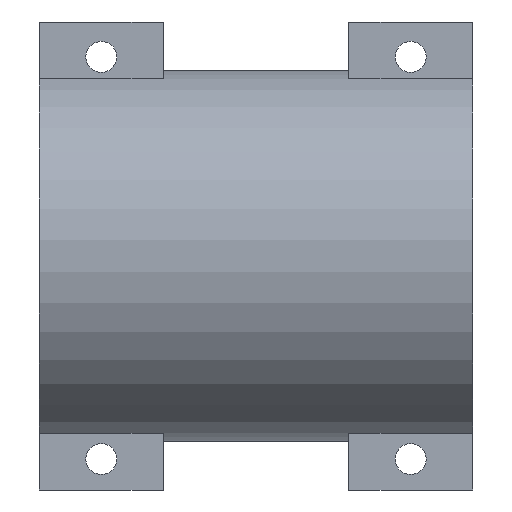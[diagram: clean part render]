
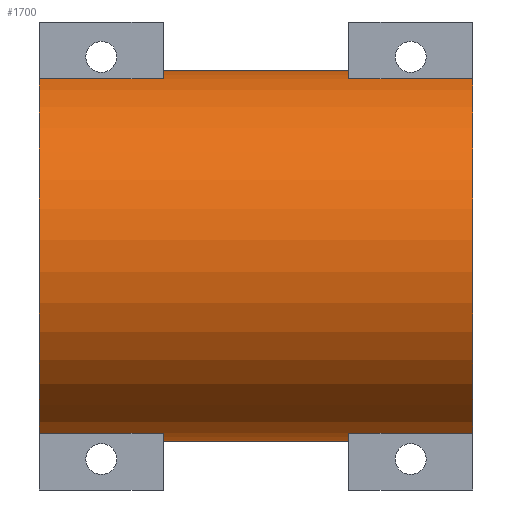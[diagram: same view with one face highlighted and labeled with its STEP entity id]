
A CAD part, left-side view. The second image highlights one B-rep face of the part: STEP entity #1700.
In plain terms, the highlighted cylindrical face has radius 30 mm (diameter 60 mm), a partial arc.
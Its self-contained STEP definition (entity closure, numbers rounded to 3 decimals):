
#2 = CARTESIAN_POINT ( 'NONE',  ( -1.79, 20., 29.947 ) ) ;
#6 = CARTESIAN_POINT ( 'NONE',  ( 0., 0., 0. ) ) ;
#7 = EDGE_CURVE ( 'NONE', #416, #1855, #1202, .T. ) ;
#26 = AXIS2_PLACEMENT_3D ( 'NONE', #206, #684, #1510 ) ;
#30 = AXIS2_PLACEMENT_3D ( 'NONE', #441, #1229, #449 ) ;
#50 = EDGE_CURVE ( 'NONE', #1523, #505, #1158, .T. ) ;
#81 = CARTESIAN_POINT ( 'NONE',  ( -1.79, 50., 29.947 ) ) ;
#98 = CARTESIAN_POINT ( 'NONE',  ( -8.79, 0., 28.683 ) ) ;
#112 = ORIENTED_EDGE ( 'NONE', *, *, #852, .T. ) ;
#129 = ORIENTED_EDGE ( 'NONE', *, *, #50, .T. ) ;
#162 = CIRCLE ( 'NONE', #30, 30. ) ;
#175 = CARTESIAN_POINT ( 'NONE',  ( -1.79, 50., -29.947 ) ) ;
#195 = VERTEX_POINT ( 'NONE', #81 ) ;
#206 = CARTESIAN_POINT ( 'NONE',  ( 0., 70., 0. ) ) ;
#210 = VERTEX_POINT ( 'NONE', #2012 ) ;
#236 = VECTOR ( 'NONE', #466, 1000. ) ;
#257 = CARTESIAN_POINT ( 'NONE',  ( -8.79, 70., -28.683 ) ) ;
#267 = CARTESIAN_POINT ( 'NONE',  ( -1.79, 70., -29.947 ) ) ;
#278 = CARTESIAN_POINT ( 'NONE',  ( -1.79, 70., 29.947 ) ) ;
#292 = DIRECTION ( 'NONE',  ( 0., 1., 0. ) ) ;
#308 = CIRCLE ( 'NONE', #1760, 30. ) ;
#320 = CIRCLE ( 'NONE', #1273, 30. ) ;
#346 = EDGE_CURVE ( 'NONE', #1458, #195, #501, .T. ) ;
#400 = EDGE_CURVE ( 'NONE', #846, #1401, #1978, .T. ) ;
#416 = VERTEX_POINT ( 'NONE', #175 ) ;
#441 = CARTESIAN_POINT ( 'NONE',  ( 0., 50., 0. ) ) ;
#449 = DIRECTION ( 'NONE',  ( 0., 0., -1. ) ) ;
#466 = DIRECTION ( 'NONE',  ( 0., 1., 0. ) ) ;
#498 = ORIENTED_EDGE ( 'NONE', *, *, #1990, .T. ) ;
#501 = LINE ( 'NONE', #278, #1312 ) ;
#502 = EDGE_CURVE ( 'NONE', #1200, #210, #320, .T. ) ;
#505 = VERTEX_POINT ( 'NONE', #1776 ) ;
#559 = LINE ( 'NONE', #267, #1522 ) ;
#603 = DIRECTION ( 'NONE',  ( 0., -1., 0. ) ) ;
#611 = CARTESIAN_POINT ( 'NONE',  ( -8.79, 50., -28.683 ) ) ;
#624 = ORIENTED_EDGE ( 'NONE', *, *, #1965, .T. ) ;
#635 = EDGE_LOOP ( 'NONE', ( #1993, #624, #129, #1804, #1862, #112, #1636, #1909, #1906, #498, #1123, #945 ) ) ;
#663 = DIRECTION ( 'NONE',  ( 0., 1., 0. ) ) ;
#684 = DIRECTION ( 'NONE',  ( 0., -1., 0. ) ) ;
#706 = CARTESIAN_POINT ( 'NONE',  ( -8.79, 0., -28.683 ) ) ;
#721 = CYLINDRICAL_SURFACE ( 'NONE', #26, 30. ) ;
#768 = VECTOR ( 'NONE', #292, 1000. ) ;
#776 = DIRECTION ( 'NONE',  ( 0., 1., 0. ) ) ;
#777 = LINE ( 'NONE', #611, #236 ) ;
#781 = DIRECTION ( 'NONE',  ( 0., 1., 0. ) ) ;
#806 = DIRECTION ( 'NONE',  ( 0., 1., 0. ) ) ;
#837 = AXIS2_PLACEMENT_3D ( 'NONE', #1809, #1962, #1006 ) ;
#846 = VERTEX_POINT ( 'NONE', #257 ) ;
#852 = EDGE_CURVE ( 'NONE', #210, #1267, #1355, .T. ) ;
#910 = EDGE_CURVE ( 'NONE', #1855, #846, #777, .T. ) ;
#918 = DIRECTION ( 'NONE',  ( 0., -1., 0. ) ) ;
#922 = EDGE_CURVE ( 'NONE', #1200, #505, #1282, .T. ) ;
#945 = ORIENTED_EDGE ( 'NONE', *, *, #910, .F. ) ;
#946 = LINE ( 'NONE', #1263, #768 ) ;
#1006 = DIRECTION ( 'NONE',  ( 0., 0., 1. ) ) ;
#1080 = CARTESIAN_POINT ( 'NONE',  ( -8.79, 20., 28.683 ) ) ;
#1092 = CARTESIAN_POINT ( 'NONE',  ( 0., 70., 0. ) ) ;
#1123 = ORIENTED_EDGE ( 'NONE', *, *, #400, .F. ) ;
#1158 = CIRCLE ( 'NONE', #837, 30. ) ;
#1162 = AXIS2_PLACEMENT_3D ( 'NONE', #1092, #1437, #1280 ) ;
#1200 = VERTEX_POINT ( 'NONE', #706 ) ;
#1202 = CIRCLE ( 'NONE', #1562, 30. ) ;
#1229 = DIRECTION ( 'NONE',  ( 0., -1., 0. ) ) ;
#1235 = CARTESIAN_POINT ( 'NONE',  ( -8.79, 50., 28.683 ) ) ;
#1256 = DIRECTION ( 'NONE',  ( 0., 1., 0. ) ) ;
#1263 = CARTESIAN_POINT ( 'NONE',  ( -8.79, 50., 28.683 ) ) ;
#1267 = VERTEX_POINT ( 'NONE', #1080 ) ;
#1273 = AXIS2_PLACEMENT_3D ( 'NONE', #6, #663, #1455 ) ;
#1280 = DIRECTION ( 'NONE',  ( 0., 0., 1. ) ) ;
#1282 = LINE ( 'NONE', #1291, #2003 ) ;
#1291 = CARTESIAN_POINT ( 'NONE',  ( -8.79, 0., -28.683 ) ) ;
#1297 = EDGE_CURVE ( 'NONE', #195, #1877, #162, .T. ) ;
#1312 = VECTOR ( 'NONE', #781, 1000. ) ;
#1330 = DIRECTION ( 'NONE',  ( 0., 0., 1. ) ) ;
#1355 = LINE ( 'NONE', #98, #1765 ) ;
#1401 = VERTEX_POINT ( 'NONE', #2059 ) ;
#1437 = DIRECTION ( 'NONE',  ( 0., 1., 0. ) ) ;
#1455 = DIRECTION ( 'NONE',  ( 0., 0., 1. ) ) ;
#1458 = VERTEX_POINT ( 'NONE', #2 ) ;
#1484 = CARTESIAN_POINT ( 'NONE',  ( 0., 50., 0. ) ) ;
#1510 = DIRECTION ( 'NONE',  ( 0., 0., -1. ) ) ;
#1522 = VECTOR ( 'NONE', #918, 1000. ) ;
#1523 = VERTEX_POINT ( 'NONE', #1920 ) ;
#1562 = AXIS2_PLACEMENT_3D ( 'NONE', #1484, #806, #1330 ) ;
#1581 = CARTESIAN_POINT ( 'NONE',  ( 0., 20., 0. ) ) ;
#1582 = FACE_OUTER_BOUND ( 'NONE', #635, .T. ) ;
#1636 = ORIENTED_EDGE ( 'NONE', *, *, #1989, .F. ) ;
#1700 = ADVANCED_FACE ( 'NONE', ( #1582 ), #721, .T. ) ;
#1745 = DIRECTION ( 'NONE',  ( 0., 0., -1. ) ) ;
#1760 = AXIS2_PLACEMENT_3D ( 'NONE', #1581, #603, #1745 ) ;
#1765 = VECTOR ( 'NONE', #1256, 1000. ) ;
#1776 = CARTESIAN_POINT ( 'NONE',  ( -8.79, 20., -28.683 ) ) ;
#1804 = ORIENTED_EDGE ( 'NONE', *, *, #922, .F. ) ;
#1809 = CARTESIAN_POINT ( 'NONE',  ( 0., 20., 0. ) ) ;
#1855 = VERTEX_POINT ( 'NONE', #1866 ) ;
#1862 = ORIENTED_EDGE ( 'NONE', *, *, #502, .T. ) ;
#1866 = CARTESIAN_POINT ( 'NONE',  ( -8.79, 50., -28.683 ) ) ;
#1877 = VERTEX_POINT ( 'NONE', #1235 ) ;
#1906 = ORIENTED_EDGE ( 'NONE', *, *, #1297, .T. ) ;
#1909 = ORIENTED_EDGE ( 'NONE', *, *, #346, .T. ) ;
#1920 = CARTESIAN_POINT ( 'NONE',  ( -1.79, 20., -29.947 ) ) ;
#1962 = DIRECTION ( 'NONE',  ( 0., 1., 0. ) ) ;
#1965 = EDGE_CURVE ( 'NONE', #416, #1523, #559, .T. ) ;
#1978 = CIRCLE ( 'NONE', #1162, 30. ) ;
#1989 = EDGE_CURVE ( 'NONE', #1458, #1267, #308, .T. ) ;
#1990 = EDGE_CURVE ( 'NONE', #1877, #1401, #946, .T. ) ;
#1993 = ORIENTED_EDGE ( 'NONE', *, *, #7, .F. ) ;
#2003 = VECTOR ( 'NONE', #776, 1000. ) ;
#2012 = CARTESIAN_POINT ( 'NONE',  ( -8.79, 0., 28.683 ) ) ;
#2059 = CARTESIAN_POINT ( 'NONE',  ( -8.79, 70., 28.683 ) ) ;
